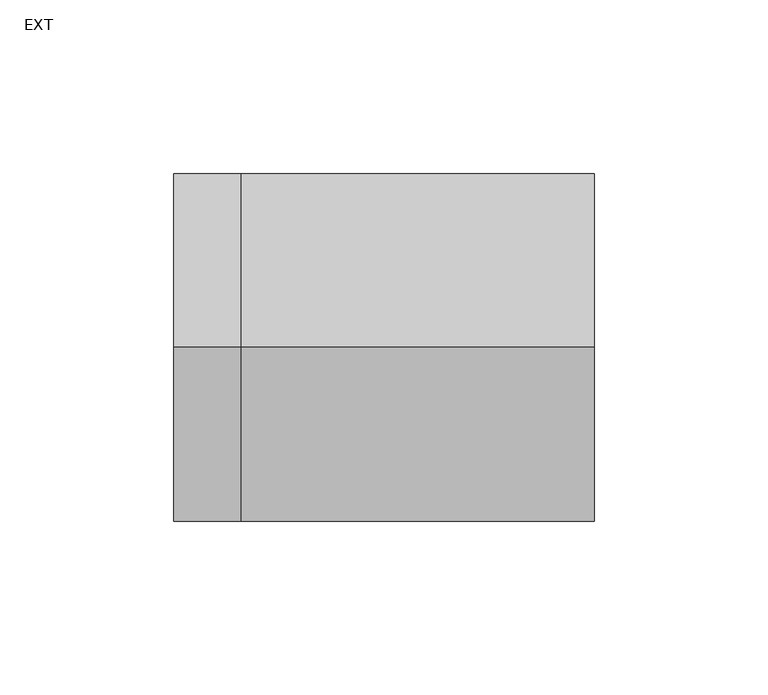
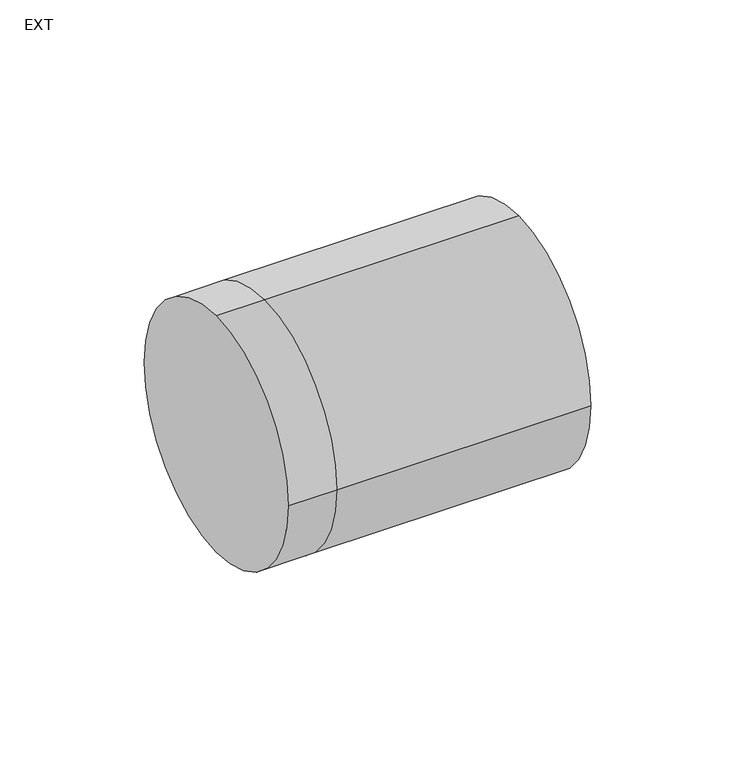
"""IFC4 building model written with IfcOpenShell, lengths in millimetres: duct fitting geometry, M_Toma de derivación redonda : EXT."""

from ifc_helpers import new_model, si_unit, frame, origin, place, context, project, spatial, circle_curve, source, transform, mapped, element, save
from ifc_brep_helpers import plane_surface, cylinder_surface, advanced_brep


def ext_8b80eda7(model_context):
    return source(origin(), model_context, "Body", "AdvancedBrep", [
        advanced_brep(
        [(101.6, 0.0, 50.0), (101.6, -50.0, 0.0), (101.6, 0.0, -50.0), (101.6, 50.0, 0.0), (0.0, 0.0, 50.0), (0.0, -50.0, 0.0), (0.0, 0.0, -50.0), (0.0, 50.0, 0.0), (-19.4934596, 0.0, 50.0), (-19.4934596, 50.0, 0.0), (-19.4934596, 0.0, -50.0), (-19.4934596, -50.0, 0.0)],
        [
            (0, 1, circle_curve(frame((101.6, 0.0, 0.0), z_axis=(1.0, 0.0, 0.0), x_axis=(0.0, -1.0, 0.0)), 50.0)),
            (1, 2, circle_curve(frame((101.6, 0.0, 0.0), z_axis=(1.0, 0.0, 0.0), x_axis=(0.0, -1.0, 0.0)), 50.0)),
            (2, 3, circle_curve(frame((101.6, 0.0, 0.0), z_axis=(1.0, 0.0, 0.0), x_axis=(0.0, -1.0, 0.0)), 50.0)),
            (3, 0, circle_curve(frame((101.6, 0.0, 0.0), z_axis=(1.0, 0.0, 0.0), x_axis=(0.0, -1.0, 0.0)), 50.0)),
            (0, 4),
            (4, 5, circle_curve(frame((0.0, 0.0, 0.0), z_axis=(1.0, 0.0, 0.0), x_axis=(0.0, -1.0, 0.0)), 50.0)),
            (5, 1),
            (5, 6, circle_curve(frame((0.0, 0.0, 0.0), z_axis=(1.0, 0.0, 0.0), x_axis=(0.0, -1.0, 0.0)), 50.0)),
            (6, 2),
            (6, 7, circle_curve(frame((0.0, 0.0, 0.0), z_axis=(1.0, 0.0, 0.0), x_axis=(0.0, -1.0, 0.0)), 50.0)),
            (7, 3),
            (7, 4, circle_curve(frame((0.0, 0.0, 0.0), z_axis=(1.0, 0.0, 0.0), x_axis=(0.0, -1.0, 0.0)), 50.0)),
            (8, 9, circle_curve(frame((-19.4934596, 0.0, 0.0), z_axis=(-1.0, 0.0, 0.0), x_axis=(0.0, -1.0, 0.0)), 50.0)),
            (9, 10, circle_curve(frame((-19.4934596, 0.0, 0.0), z_axis=(-1.0, 0.0, 0.0), x_axis=(0.0, -1.0, 0.0)), 50.0)),
            (10, 11, circle_curve(frame((-19.4934596, 0.0, 0.0), z_axis=(-1.0, 0.0, 0.0), x_axis=(0.0, -1.0, 0.0)), 50.0)),
            (11, 8, circle_curve(frame((-19.4934596, 0.0, 0.0), z_axis=(-1.0, 0.0, 0.0), x_axis=(0.0, -1.0, 0.0)), 50.0)),
            (11, 5),
            (4, 8),
            (10, 6),
            (9, 7),
        ],
        [
            plane_surface(frame((101.6, 0.0, 0.0), z_axis=(1.0, 0.0, 0.0), x_axis=(0.0, 0.0, 1.0))),
            cylinder_surface(frame((0.0, 0.0, 0.0), z_axis=(-1.0, 0.0, 0.0), x_axis=(0.0, -1.0, 0.0)), 50.0),
            plane_surface(frame((-19.4934596, 0.0, 0.0), z_axis=(-1.0, 0.0, 0.0), x_axis=(0.0, 0.0, 1.0))),
            cylinder_surface(frame((-19.4934596, 0.0, 0.0), z_axis=(-1.0, 0.0, 0.0), x_axis=(0.0, -1.0, 0.0)), 50.0),
        ],
        [
            (0, [[1, 2, 3, 4]]),
            (1, [[5, 6, 7, -1]]),
            (1, [[-7, 8, 9, -2]]),
            (1, [[-9, 10, 11, -3]]),
            (1, [[-11, 12, -5, -4]]),
            (2, [[13, 14, 15, 16]]),
            (3, [[17, -6, 18, -16]]),
            (3, [[19, -8, -17, -15]]),
            (3, [[20, -10, -19, -14]]),
            (3, [[-18, -12, -20, -13]]),
        ],
    ),
    ])


if __name__ == "__main__":
    model = new_model("IFC4")
    model_context = context("Model", 3, world=origin())
    ifc_project = project(units=[si_unit("LENGTHUNIT", "METRE", prefix="MILLI")], contexts=[model_context])
    site = spatial("IfcSite", under=ifc_project)
    building = spatial("IfcBuilding", under=site)
    placement = place(None, origin())
    ext_shape = ext_8b80eda7(model_context)
    element("IfcDuctFitting", 1, ObjectType="M_Toma de derivación redonda : EXT", at=placement, inside=building, context=model_context, shape_type="MappedRepresentation", body=[
        mapped(ext_shape, transform((0.0, 0.0, 0.0), x_axis=(1.0, 0.0, 0.0), y_axis=(0.0, 1.0, 0.0), z_axis=(0.0, 0.0, 1.0))),
    ])
    save(model, "model.ifc")
